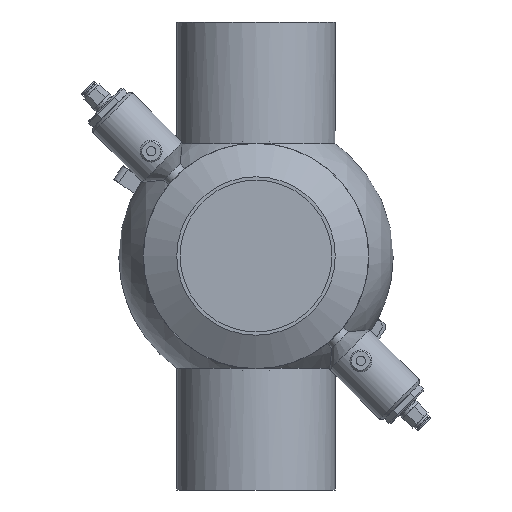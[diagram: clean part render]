
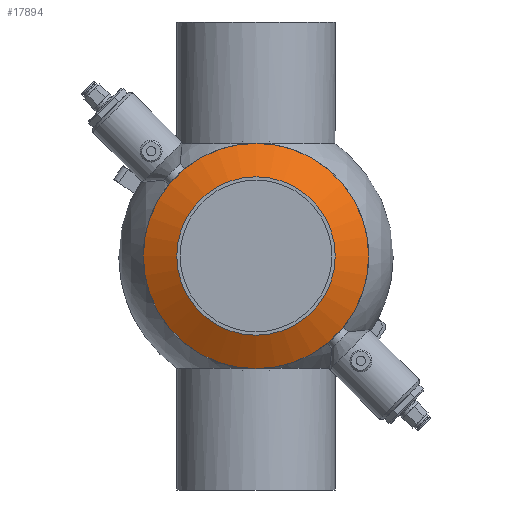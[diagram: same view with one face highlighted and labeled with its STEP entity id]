
A CAD part, front view. The second image highlights one B-rep face of the part: STEP entity #17894.
In plain terms, the highlighted conical face has half-angle 60 degrees and reference radius 72.25 mm.
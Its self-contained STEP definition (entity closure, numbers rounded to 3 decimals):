
#1420 = CIRCLE ( 'NONE', #18308, 50.8 ) ;
#2441 = EDGE_CURVE ( 'NONE', #18942, #18942, #3163, .T. ) ;
#3142 = DIRECTION ( 'NONE',  ( 0., 1., 0. ) ) ;
#3163 = CIRCLE ( 'NONE', #19303, 72.25 ) ;
#3596 = EDGE_LOOP ( 'NONE', ( #19583 ) ) ;
#3657 = AXIS2_PLACEMENT_3D ( 'NONE', #10628, #14342, #19884 ) ;
#4339 = DIRECTION ( 'NONE',  ( -1., 0., 0. ) ) ;
#5099 = FACE_OUTER_BOUND ( 'NONE', #3596, .T. ) ;
#6521 = CARTESIAN_POINT ( 'NONE',  ( -50.8, -91.384, 0. ) ) ;
#7808 = ORIENTED_EDGE ( 'NONE', *, *, #20221, .T. ) ;
#10628 = CARTESIAN_POINT ( 'NONE',  ( 0., -79., 0. ) ) ;
#14199 = DIRECTION ( 'NONE',  ( -1., 0., 0. ) ) ;
#14342 = DIRECTION ( 'NONE',  ( 0., 1., 0. ) ) ;
#15274 = CARTESIAN_POINT ( 'NONE',  ( 0., -79., 0. ) ) ;
#16768 = EDGE_LOOP ( 'NONE', ( #7808 ) ) ;
#17099 = VERTEX_POINT ( 'NONE', #6521 ) ;
#17142 = CONICAL_SURFACE ( 'NONE', #3657, 72.25, 1.047 ) ;
#17445 = CARTESIAN_POINT ( 'NONE',  ( 0., -91.384, 0. ) ) ;
#17894 = ADVANCED_FACE ( 'NONE', ( #21555, #5099 ), #17142, .T. ) ;
#18308 = AXIS2_PLACEMENT_3D ( 'NONE', #17445, #3142, #14199 ) ;
#18942 = VERTEX_POINT ( 'NONE', #21094 ) ;
#19303 = AXIS2_PLACEMENT_3D ( 'NONE', #15274, #22611, #4339 ) ;
#19583 = ORIENTED_EDGE ( 'NONE', *, *, #2441, .F. ) ;
#19884 = DIRECTION ( 'NONE',  ( -1., 0., 0. ) ) ;
#20221 = EDGE_CURVE ( 'NONE', #17099, #17099, #1420, .T. ) ;
#21094 = CARTESIAN_POINT ( 'NONE',  ( -72.25, -79., 0. ) ) ;
#21555 = FACE_BOUND ( 'NONE', #16768, .T. ) ;
#22611 = DIRECTION ( 'NONE',  ( 0., 1., 0. ) ) ;
